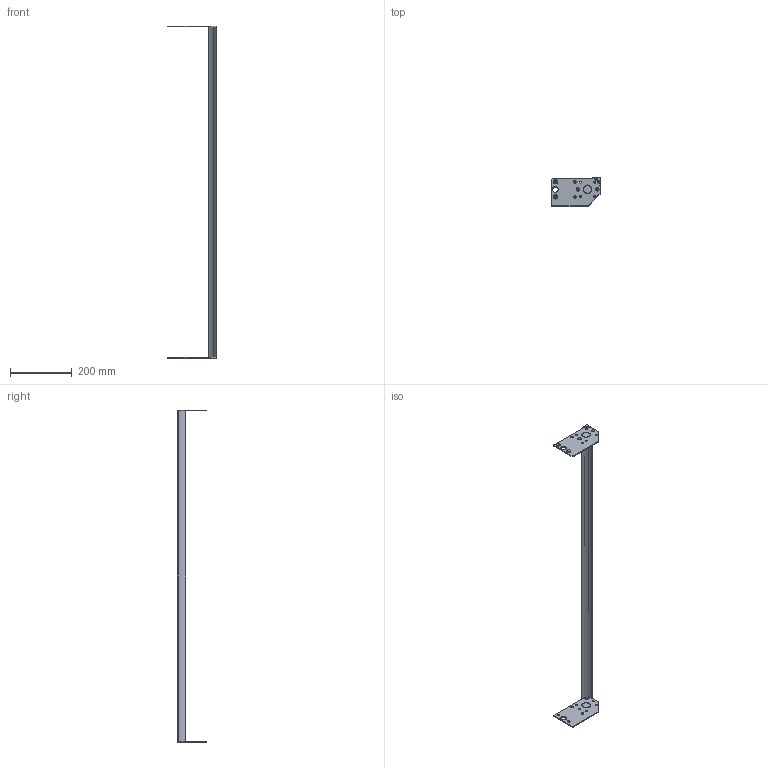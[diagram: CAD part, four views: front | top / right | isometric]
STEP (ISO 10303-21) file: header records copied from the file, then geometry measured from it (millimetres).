
FILE_DESCRIPTION((''),'2;1');
FILE_NAME('351039-42_ASM','2023-03-14T',('jenni.wallner'),(''),'PRO/ENGINEER BY PARAMETRIC TECHNOLOGY CORPORATION, 2012420','PRO/ENGINEER BY PARAMETRIC TECHNOLOGY CORPORATION, 2012420','');
FILE_SCHEMA(('CONFIG_CONTROL_DESIGN'));
Length unit declared in the file: inch
Products named in the file (6): 9304XXM_930410M; 350540; 350539-WW_350539-42; 350541; ASM0001_ASM; 351039-42_ASM
Assembly tree (8 placements, depth 3):
  351039-42_ASM
    ASM0001_ASM
      9304XXM_930410M  x4
      350540
      350539-WW_350539-42
      350541
Bounding box: 157.96 x 92.74 x 1078.89 mm (x, y, z)
Volume: 377374.3 mm3; surface area: 174467.2 mm2
Topology: 7 solids, 7 shells, 227 faces, 567 edges, 354 vertices
Faces by surface type: cylinder 93, cone 68, plane 66
Entity records: 5405 total; most frequent: DIRECTION 978, CARTESIAN_POINT 966, ORIENTED_EDGE 852, EDGE_CURVE 426, AXIS2_PLACEMENT_3D 390, VERTEX_POINT 276, EDGE_LOOP 216, CIRCLE 214
